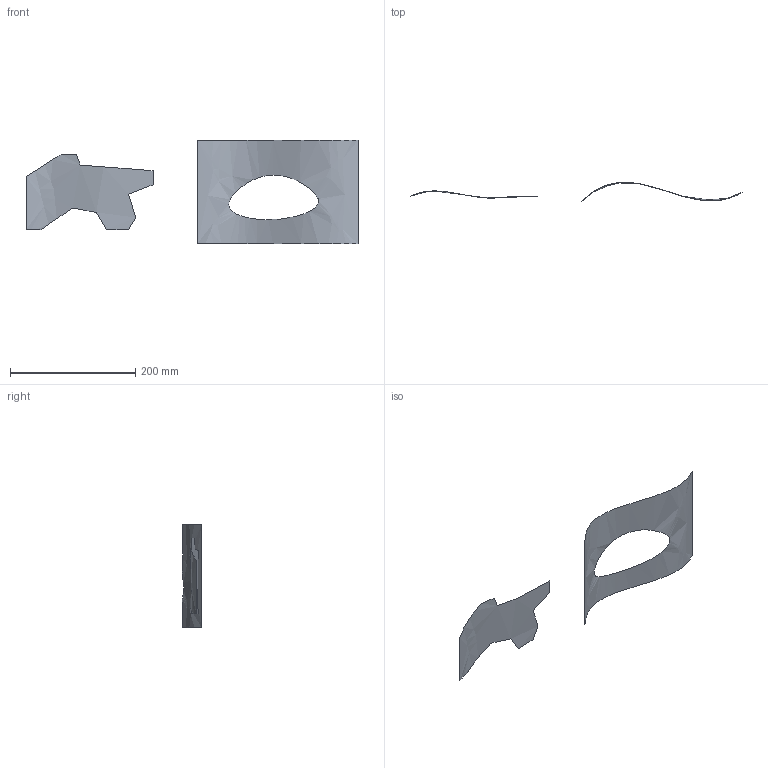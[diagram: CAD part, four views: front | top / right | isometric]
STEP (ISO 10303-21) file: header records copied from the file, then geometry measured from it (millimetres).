
FILE_DESCRIPTION (( 'STEP AP203' ), '1' );
FILE_NAME ('17.1.STEP', '2025-10-25T22:48:27', ( '' ), ( '' ), 'SwSTEP 2.0', 'SolidWorks 2025', '' );
FILE_SCHEMA (( 'CONFIG_CONTROL_DESIGN' ));
Length unit declared in the file: millimetre
Products named in the file (1): 17.1
Bounding box: 530.31 x 30.73 x 165 mm (x, y, z)
Surface area: 53391.6 mm2 (no closed solid volume)
Topology: 0 solids, 2 shells, 2 faces, 20 edges, 20 vertices
Faces by surface type: bspline 2
Entity records: 906 total; most frequent: CARTESIAN_POINT 723, EDGE_CURVE 20, ORIENTED_EDGE 20, VERTEX_POINT 20, B_SPLINE_CURVE_WITH_KNOTS 16, PERSON_AND_ORGANIZATION 8, DIRECTION 6, COORDINATED_UNIVERSAL_TIME_OFFSET 5
